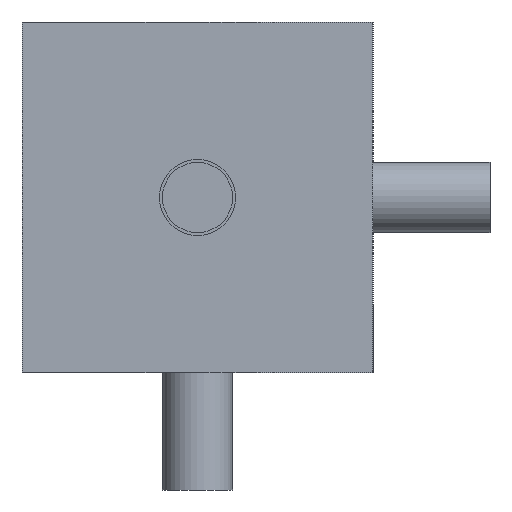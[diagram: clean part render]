
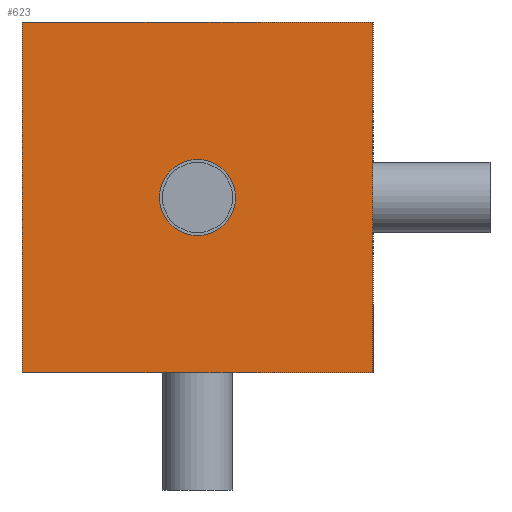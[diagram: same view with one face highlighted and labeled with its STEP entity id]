
A CAD part, left-side view. The second image highlights one B-rep face of the part: STEP entity #623.
In plain terms, the highlighted planar face has unit normal (-1, 0, 0).
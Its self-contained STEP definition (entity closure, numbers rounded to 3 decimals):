
#312=CARTESIAN_POINT('',(-15.,-3.25,0.0));
#313=VERTEX_POINT('',#312);
#314=CARTESIAN_POINT('',(-15.,0.,0.));
#315=DIRECTION('',(1.0,0.0,0.0));
#316=DIRECTION('',(0.0,1.0,0.0));
#317=AXIS2_PLACEMENT_3D('',#314,#315,#316);
#318=CIRCLE('',#317,3.25);
#319=EDGE_CURVE('',#313,#313,#318,.T.);
#581=CARTESIAN_POINT('',(-15.,-15.,-15.));
#582=DIRECTION('',(-1.0,0.0,0.0));
#583=DIRECTION('',(0.0,0.0,1.0));
#584=AXIS2_PLACEMENT_3D('',#581,#582,#583);
#585=PLANE('',#584);
#586=CARTESIAN_POINT('',(-15.,-15.,15.));
#587=VERTEX_POINT('',#586);
#588=CARTESIAN_POINT('',(-15.,15.0,15.));
#589=VERTEX_POINT('',#588);
#590=CARTESIAN_POINT('',(-15.,-15.,15.));
#591=DIRECTION('',(0.0,1.0,0.0));
#592=VECTOR('',#591,30.0);
#593=LINE('',#590,#592);
#594=EDGE_CURVE('',#587,#589,#593,.T.);
#595=ORIENTED_EDGE('',*,*,#594,.T.);
#596=CARTESIAN_POINT('',(-15.,15.0,-15.));
#597=VERTEX_POINT('',#596);
#598=CARTESIAN_POINT('',(-15.,15.0,-15.));
#599=DIRECTION('',(0.0,0.0,1.0));
#600=VECTOR('',#599,30.);
#601=LINE('',#598,#600);
#602=EDGE_CURVE('',#597,#589,#601,.T.);
#603=ORIENTED_EDGE('',*,*,#602,.F.);
#604=CARTESIAN_POINT('',(-15.,-15.,-15.));
#605=VERTEX_POINT('',#604);
#606=CARTESIAN_POINT('',(-15.,15.0,-15.));
#607=DIRECTION('',(0.0,-1.0,0.0));
#608=VECTOR('',#607,30.0);
#609=LINE('',#606,#608);
#610=EDGE_CURVE('',#597,#605,#609,.T.);
#611=ORIENTED_EDGE('',*,*,#610,.T.);
#612=CARTESIAN_POINT('',(-15.,-15.,-15.));
#613=DIRECTION('',(0.0,0.0,1.0));
#614=VECTOR('',#613,30.);
#615=LINE('',#612,#614);
#616=EDGE_CURVE('',#605,#587,#615,.T.);
#617=ORIENTED_EDGE('',*,*,#616,.T.);
#618=EDGE_LOOP('',(#595,#603,#611,#617));
#619=FACE_OUTER_BOUND('',#618,.T.);
#620=ORIENTED_EDGE('',*,*,#319,.T.);
#621=EDGE_LOOP('',(#620));
#622=FACE_BOUND('',#621,.T.);
#623=ADVANCED_FACE('',(#619,#622),#585,.T.);
